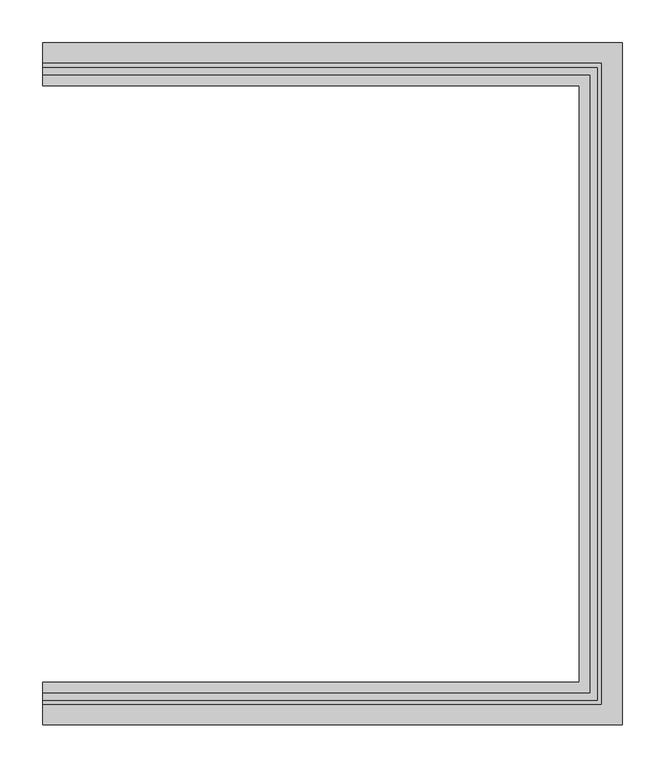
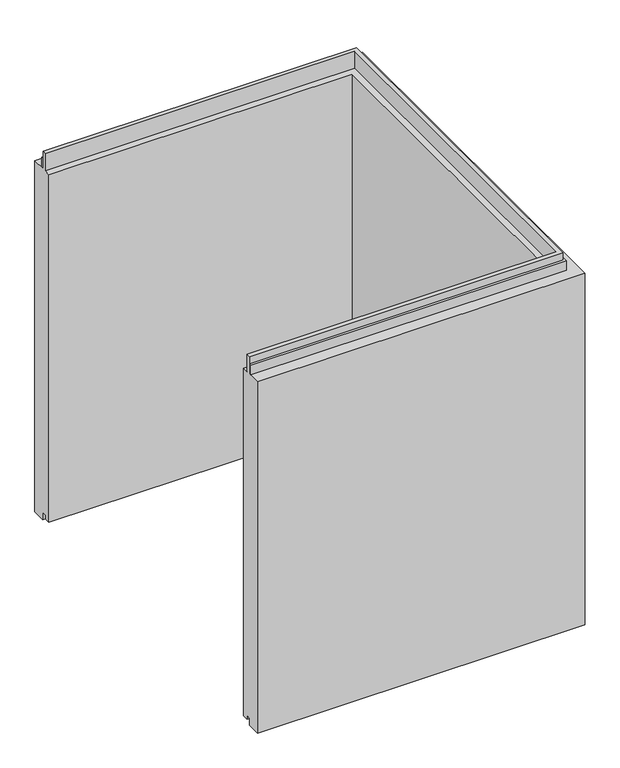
"""IFC4 building model written with IfcOpenShell, lengths in millimetres: plate geometry, Trimo_Qbiss Screen_U Corner Panel-HORIZONTAL : HR - B."""

from ifc_helpers import new_model, si_unit, frame, origin, place, context, project, spatial, polyline, outline, extrude, faceted_brep, source, transform, mapped, element, save


def plate_e64e6de2(model_context):
    return source(origin(), model_context, "Body", "SolidModel", [
        faceted_brep([(-300.0, 116.0, 764.95), (-300.0, 145.0, 764.95), (-300.0, 145.0, 0.0), (-300.0, 117.0, 0.0), (-300.0, 117.0, 15.5), (-300.0, 107.0, 15.5), (-300.0, 107.0, 7.0), (-300.0, 95.0, 7.0), (-300.0, 95.0, 764.95), (-300.0, 108.0, 764.95), (-300.0, 108.0, 802.45), (-300.0, 116.0, 802.45), (346.0, 116.0, 764.95), (346.0, -621.0, 764.95), (-300.0, -621.0, 764.95), (-300.0, -650.0, 764.95), (375.0, -650.0, 764.95), (375.0, 145.0, 764.95), (375.0, 145.0, 0.0), (375.0, -650.0, 0.0), (-300.0, -650.0, 0.0), (-300.0, -622.0, 0.0), (347.0, -622.0, 0.0), (347.0, 117.0, 0.0), (347.0, 117.0, 15.5), (347.0, -622.0, 15.5), (-300.0, -622.0, 15.5), (-300.0, -612.0, 15.5), (337.0, -612.0, 15.5), (337.0, 107.0, 15.5), (337.0, 107.0, 7.0), (337.0, -612.0, 7.0), (-300.0, -612.0, 7.0), (-300.0, -600.0, 7.0), (325.0, -600.0, 7.0), (325.0, 95.0, 7.0), (325.0, 95.0, 764.95), (325.0, -600.0, 764.95), (-300.0, -600.0, 764.95), (-300.0, -613.0, 764.95), (338.0, -613.0, 764.95), (338.0, 108.0, 764.95), (338.0, 108.0, 802.45), (338.0, -613.0, 802.45), (-300.0, -613.0, 802.45), (-300.0, -621.0, 802.45), (346.0, -621.0, 802.45), (346.0, 116.0, 802.45)], [[[0, 1, 2, 3, 4, 5, 6, 7, 8, 9, 10, 11]], [[1, 0, 12, 13, 14, 15, 16, 17]], [[2, 1, 17, 18]], [[3, 2, 18, 19, 20, 21, 22, 23]], [[4, 3, 23, 24]], [[5, 4, 24, 25, 26, 27, 28, 29]], [[6, 5, 29, 30]], [[7, 6, 30, 31, 32, 33, 34, 35]], [[8, 7, 35, 36]], [[9, 8, 36, 37, 38, 39, 40, 41]], [[10, 9, 41, 42]], [[11, 10, 42, 43, 44, 45, 46, 47]], [[0, 11, 47, 12]], [[14, 45, 44, 39, 38, 33, 32, 27, 26, 21, 20, 15]], [[18, 17, 16, 19]], [[24, 23, 22, 25]], [[30, 29, 28, 31]], [[36, 35, 34, 37]], [[42, 41, 40, 43]], [[12, 47, 46, 13]], [[19, 16, 15, 20]], [[25, 22, 21, 26]], [[31, 28, 27, 32]], [[37, 34, 33, 38]], [[43, 40, 39, 44]], [[13, 46, 45, 14]]]),
        extrude(outline(polyline([(-300.0, 116.0), (-300.0, 121.0), (351.0, 121.0), (351.0, -626.0), (-300.0, -626.0), (-300.0, -621.0), (346.0, -621.0), (346.0, 116.0), (-300.0, 116.0)])), frame((0.0, 0.0, 765.95), z_axis=(0.0, 0.0, 1.0), x_axis=(1.0, 0.0, 0.0)), (0.0, 0.0, 1.0), 21.0),
    ])


if __name__ == "__main__":
    model = new_model("IFC4")
    model_context = context("Model", 3, world=origin())
    ifc_project = project(units=[si_unit("LENGTHUNIT", "METRE", prefix="MILLI")], contexts=[model_context])
    site = spatial("IfcSite", under=ifc_project)
    building = spatial("IfcBuilding", under=site)
    placement = place(None, origin())
    plate_shape = plate_e64e6de2(model_context)
    element("IfcPlate", 1, ObjectType="Trimo_Qbiss Screen_U Corner Panel-HORIZONTAL : HR - B", at=placement, inside=building, context=model_context, shape_type="MappedRepresentation", body=[
        mapped(plate_shape, transform((0.0, 0.0, 0.0), x_axis=(1.0, 0.0, 0.0), y_axis=(0.0, 1.0, 0.0), z_axis=(0.0, 0.0, 1.0))),
    ])
    save(model, "model.ifc")
